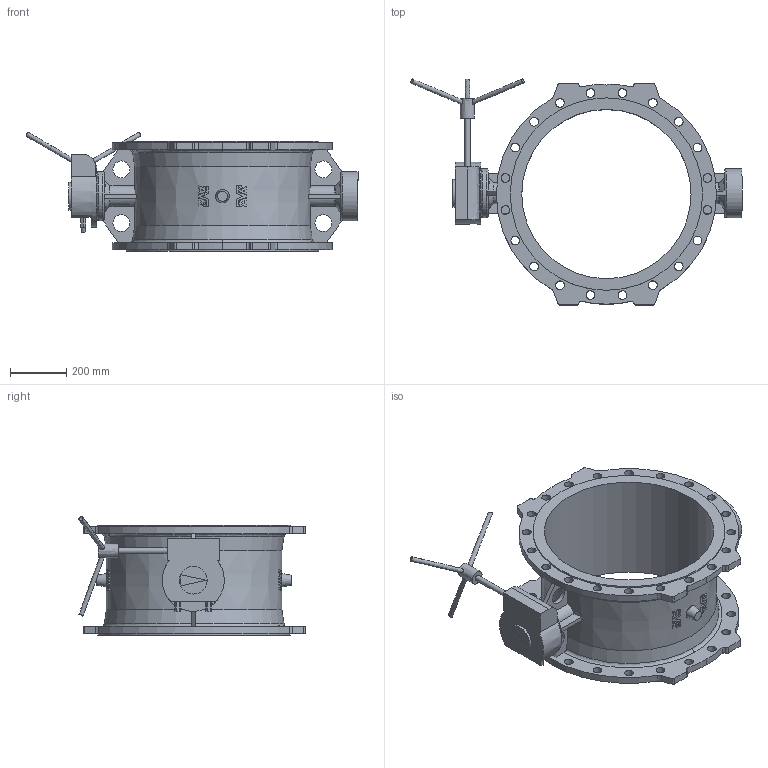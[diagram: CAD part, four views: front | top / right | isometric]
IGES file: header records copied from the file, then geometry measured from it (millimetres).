
Start section: SolidWorks IGES file using analytic representation for surfaces
Global section: file name: \\avksan2\techshare\PBM outline export from Enovia\O_756_1_DN600_0XX00_AA0_igs.igs; native system: SolidWorks 2012; preprocessor: SolidWorks 2012; author: pbm; date: 160304.125416; units: millimetre
Bounding box: 1176.52 x 801.16 x 420.19 mm (x, y, z)
Surface area: 2765957.7 mm2 (no closed solid volume)
Topology: 0 solids, 0 shells, 582 faces, 3302 edges, 3183 vertices
Faces by surface type: bspline 392, revolution 190
